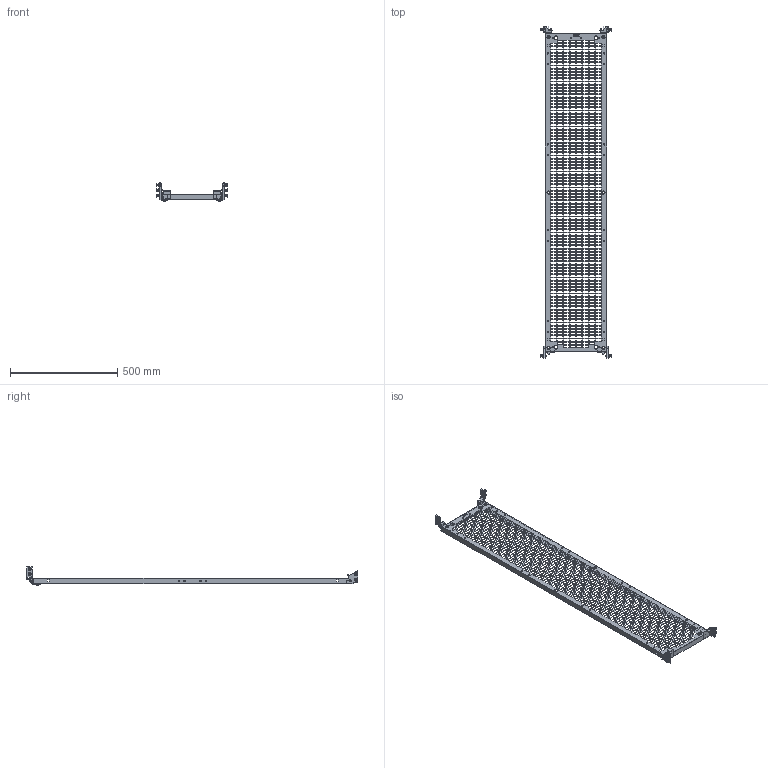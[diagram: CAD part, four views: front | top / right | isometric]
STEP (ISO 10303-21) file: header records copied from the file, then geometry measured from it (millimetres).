
FILE_DESCRIPTION (( 'STEP AP203' ), '1' );
FILE_NAME ('R5NPCEP1640.STEP', '2025-03-26T08:59:26', ( '' ), ( '' ), 'SwSTEP 2.0', 'SolidWorks 2022', '' );
FILE_SCHEMA (( 'CONFIG_CONTROL_DESIGN' ));
Length unit declared in the file: millimetre
Products named in the file (20): M6x16 DIN 912 HX cl.4,8 Zinc_thread; RB.2684.00.00.0 СБ; RB.2628.00.00.0_-13; RB.2814.00.01.0_-01; RB.2709.00.00.0; RB.2697.00.00.0; RB.2814.00.00.0 СБ_-01; 003-006-19 GOST 9833-73; M6x16 DIN 7985 Torx cl.8,8 Zinc_stright; RB.2814.00.00.0 СБ; RB.2684.00.01.0; RB.2684.00.01.0_-01; RB.2684.00.00.0 СБ_-01; RB.2814.00.01.0; M6 MGR-MKO-0625_1,5mm (thread); М6 D87181 Zinc_In a tightened position (1.5 mm); RB.1499.00.03.0; RB.2684.00.03.0; AC00C237; R5NPCEP1640
Assembly tree (43 placements, depth 3):
  R5NPCEP1640
    RB.2628.00.00.0_-13
    RB.2814.00.00.0 СБ_-01
      RB.2814.00.01.0_-01
      M6 MGR-MKO-0625_1,5mm (thread)
    RB.2814.00.00.0 СБ
      RB.2814.00.01.0
      M6 MGR-MKO-0625_1,5mm (thread)
    M6x16 DIN 912 HX cl.4,8 Zinc_thread  x2
    AC00C237  x2
    RB.2684.00.00.0 СБ_-01
      RB.2684.00.01.0_-01
      RB.2684.00.03.0
      RB.1499.00.03.0
      RB.2697.00.00.0
      003-006-19 GOST 9833-73  x2
    RB.2684.00.00.0 СБ
      RB.2684.00.01.0
      RB.2684.00.03.0
      RB.1499.00.03.0
      003-006-19 GOST 9833-73  x2
      RB.2697.00.00.0
    M6x16 DIN 7985 Torx cl.8,8 Zinc_stright  x8
    М6 D87181 Zinc_In a tightened position (1.5 mm)  x8
    RB.2709.00.00.0  x2
Bounding box: 328.3 x 1550.46 x 84.5 mm (x, y, z)
Volume: 953168.3 mm3; surface area: 920430.7 mm2
Topology: 39 solids, 39 shells, 5313 faces, 15183 edges, 9879 vertices
Faces by surface type: plane 4174, cylinder 512, bspline 301, cone 186, torus 132, sphere 8
Full cylindrical faces by diameter (mm): 0.6 x12, 2.3 x4, 2.5 x4, 3.8 x6, 4 x2, 4.2 x4, 4.92 x14, 5 x16, 6 x58, 6.5 x8, 6.7 x2, 7 x12, 7.5 x2, 8 x4, 8.3 x8, 9 x6, 10 x4, 12 x26, 15 x6
Entity records: 134803 total; most frequent: CARTESIAN_POINT 26821, ORIENTED_EDGE 22252, DIRECTION 19111, EDGE_CURVE 11126, LINE 10501, VECTOR 10501, VERTEX_POINT 7484, EDGE_LOOP 5786
